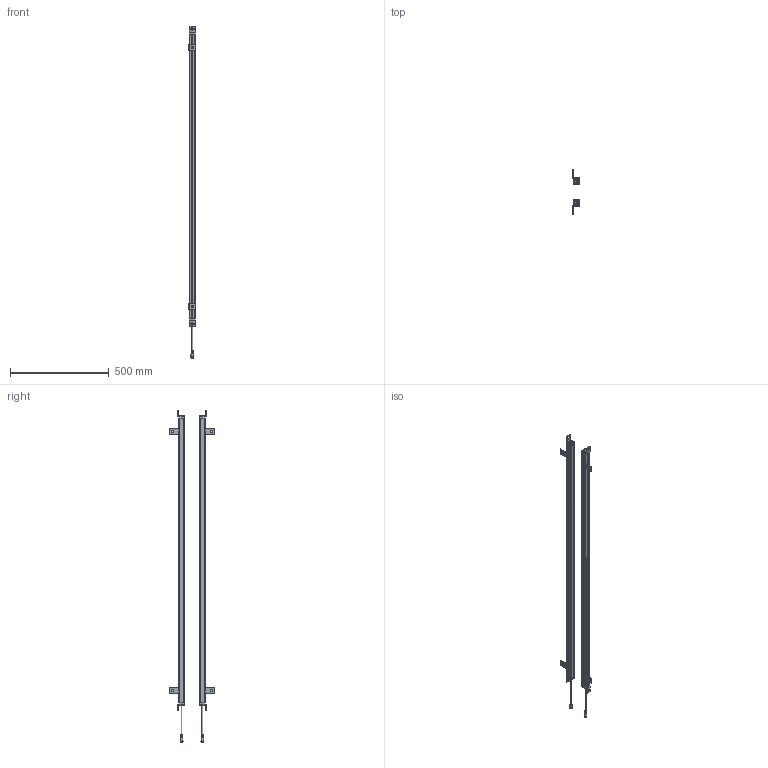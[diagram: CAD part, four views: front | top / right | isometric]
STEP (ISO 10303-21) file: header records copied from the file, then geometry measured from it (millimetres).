
FILE_DESCRIPTION(/* description */ (''),/* implementation_level */ '2;1');
FILE_NAME(/* name */ '3640（29x30).stp',/* time_stamp */ '2023-05-04T09:20:37+08:00',/* author */ (''),/* organization */ (''),/* preprocessor_version */ 'ST-DEVELOPER v16.7',/* originating_system */ 'SIEMENS PLM Software NX 12.0',/* authorisation */ '');
FILE_SCHEMA (('AUTOMOTIVE_DESIGN { 1 0 10303 214 3 1 1 1 }'));
Products named in the file (1): 2640（29x30__stp111_stp
Bounding box: 32.03 x 223.99 x 1681 mm (x, y, z)
Volume: 901718.9 mm3; surface area: 928003.7 mm2
Topology: 34 solids, 34 shells, 1610 faces, 4267 edges, 2771 vertices
Faces by surface type: plane 750, cylinder 648, bspline 88, sphere 36, cone 36, torus 32, extrusion 20
Full cylindrical faces by diameter (mm): 1.533 x6, 4.4 x4, 9 x2, 12.5 x2
Entity records: 56427 total; most frequent: CARTESIAN_POINT 16064, DIRECTION 8330, ORIENTED_EDGE 8324, EDGE_CURVE 4162, AXIS2_PLACEMENT_3D 2918, VERTEX_POINT 2696, VECTOR 2494, LINE 2474
